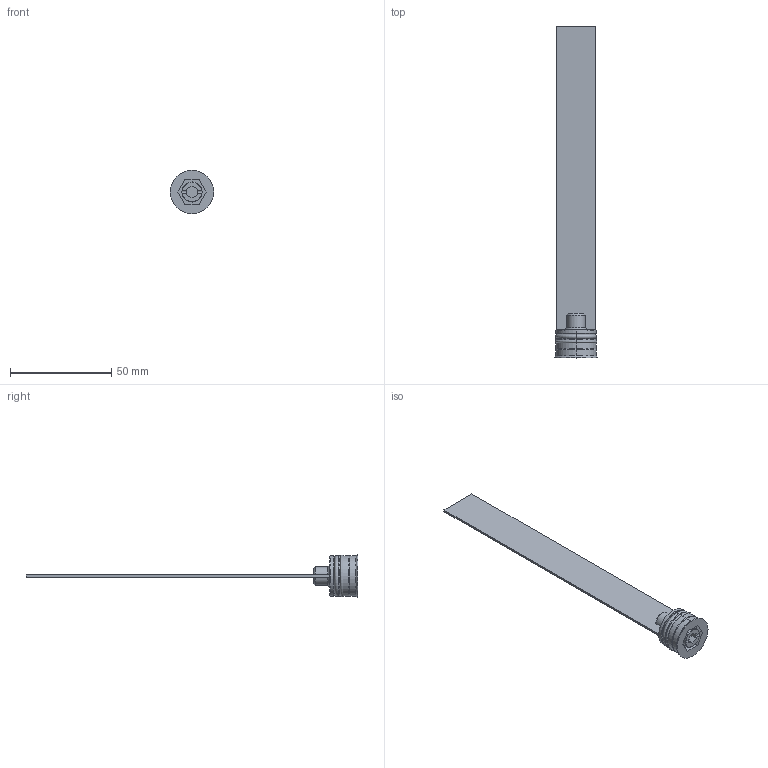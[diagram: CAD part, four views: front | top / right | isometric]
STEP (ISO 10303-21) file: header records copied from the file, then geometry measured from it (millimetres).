
FILE_DESCRIPTION (( 'STEP AP203' ), '1' );
FILE_NAME ('RL-20Fx150-19,5.STEP', '2015-12-02T15:16:51', ( 'Balzi' ), ( '' ), 'SwSTEP 2.0', 'SolidWorks 2015', '' );
FILE_SCHEMA (( 'CONFIG_CONTROL_DESIGN' ));
Length unit declared in the file: millimetre
Products named in the file (1): RL-20Fx150-19,5
Bounding box: 21.5 x 164 x 21.5 mm (x, y, z)
Volume: 7426.7 mm3; surface area: 8435.2 mm2
Topology: 1 solids, 1 shells, 75 faces, 177 edges, 109 vertices
Faces by surface type: plane 31, cone 19, cylinder 17, torus 8
Entity records: 2245 total; most frequent: CARTESIAN_POINT 412, DIRECTION 386, ORIENTED_EDGE 354, EDGE_CURVE 177, AXIS2_PLACEMENT_3D 147, VERTEX_POINT 109, LINE 92, VECTOR 92
